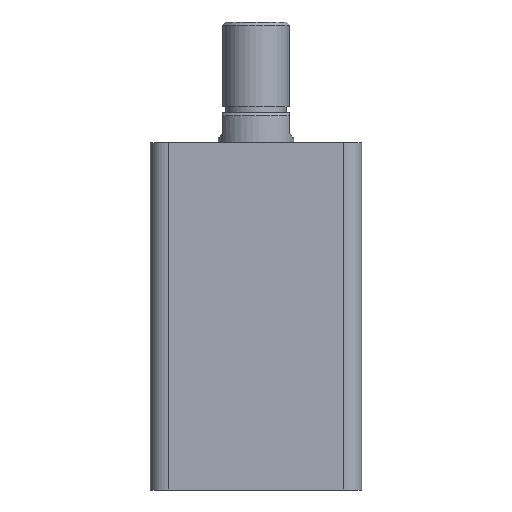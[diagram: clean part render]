
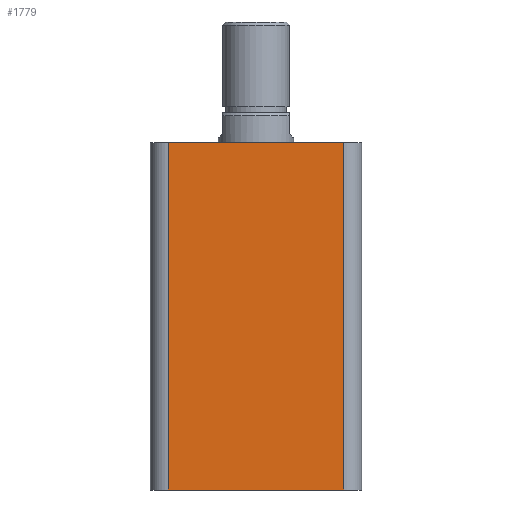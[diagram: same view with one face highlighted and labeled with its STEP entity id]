
A CAD part, front view. The second image highlights one B-rep face of the part: STEP entity #1779.
In plain terms, the highlighted planar face has unit normal (0, -1, 0).
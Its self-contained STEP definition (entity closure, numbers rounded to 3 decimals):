
#198 = EDGE_LOOP ( 'NONE', ( #235, #236, #237, #238 ) ) ;
#235 = ORIENTED_EDGE ( 'NONE', *, *, #1085, .F. ) ;
#236 = ORIENTED_EDGE ( 'NONE', *, *, #1086, .T. ) ;
#237 = ORIENTED_EDGE ( 'NONE', *, *, #1087, .T. ) ;
#238 = ORIENTED_EDGE ( 'NONE', *, *, #1088, .T. ) ;
#343 = VERTEX_POINT ( 'NONE', #1916 ) ;
#375 = VERTEX_POINT ( 'NONE', #1884 ) ;
#413 = VERTEX_POINT ( 'NONE', #1847 ) ;
#434 = VERTEX_POINT ( 'NONE', #2382 ) ;
#1027 = DIRECTION ( 'NONE',  ( 0., 0., 1. ) ) ;
#1028 = DIRECTION ( 'NONE',  ( 0., 1., 0. ) ) ;
#1029 = PLANE ( 'NONE',  #1165 ) ;
#1038 = CARTESIAN_POINT ( 'NONE',  ( -35., -35., 115. ) ) ;
#1085 = EDGE_CURVE ( 'NONE', #343, #375, #1619, .T. ) ;
#1086 = EDGE_CURVE ( 'NONE', #343, #413, #1617, .T. ) ;
#1087 = EDGE_CURVE ( 'NONE', #413, #434, #1620, .T. ) ;
#1088 = EDGE_CURVE ( 'NONE', #434, #375, #1613, .T. ) ;
#1165 = AXIS2_PLACEMENT_3D ( 'NONE', #1038, #1028, #1027 ) ;
#1410 = FACE_OUTER_BOUND ( 'NONE', #198, .T. ) ;
#1610 = VECTOR ( 'NONE', #2274, 1000. ) ;
#1612 = VECTOR ( 'NONE', #2277, 1000. ) ;
#1613 = LINE ( 'NONE', #2276, #1610 ) ;
#1614 = VECTOR ( 'NONE', #2278, 1000. ) ;
#1616 = VECTOR ( 'NONE', #2280, 1000. ) ;
#1617 = LINE ( 'NONE', #2279, #1614 ) ;
#1619 = LINE ( 'NONE', #2281, #1616 ) ;
#1620 = LINE ( 'NONE', #2287, #1612 ) ;
#1779 = ADVANCED_FACE ( 'NONE', ( #1410 ), #1029, .F. ) ;
#1847 = CARTESIAN_POINT ( 'NONE',  ( -29., -35., 0. ) ) ;
#1884 = CARTESIAN_POINT ( 'NONE',  ( 29., -35., 115. ) ) ;
#1916 = CARTESIAN_POINT ( 'NONE',  ( -29., -35., 115. ) ) ;
#2274 = DIRECTION ( 'NONE',  ( 0., 0., 1. ) ) ;
#2276 = CARTESIAN_POINT ( 'NONE',  ( 29., -35., 115. ) ) ;
#2277 = DIRECTION ( 'NONE',  ( 1., 0., 0. ) ) ;
#2278 = DIRECTION ( 'NONE',  ( 0., 0., -1. ) ) ;
#2279 = CARTESIAN_POINT ( 'NONE',  ( -29., -35., 115. ) ) ;
#2280 = DIRECTION ( 'NONE',  ( 1., 0., 0. ) ) ;
#2281 = CARTESIAN_POINT ( 'NONE',  ( -35., -35., 115. ) ) ;
#2287 = CARTESIAN_POINT ( 'NONE',  ( -35., -35., 0. ) ) ;
#2382 = CARTESIAN_POINT ( 'NONE',  ( 29., -35., 0. ) ) ;
